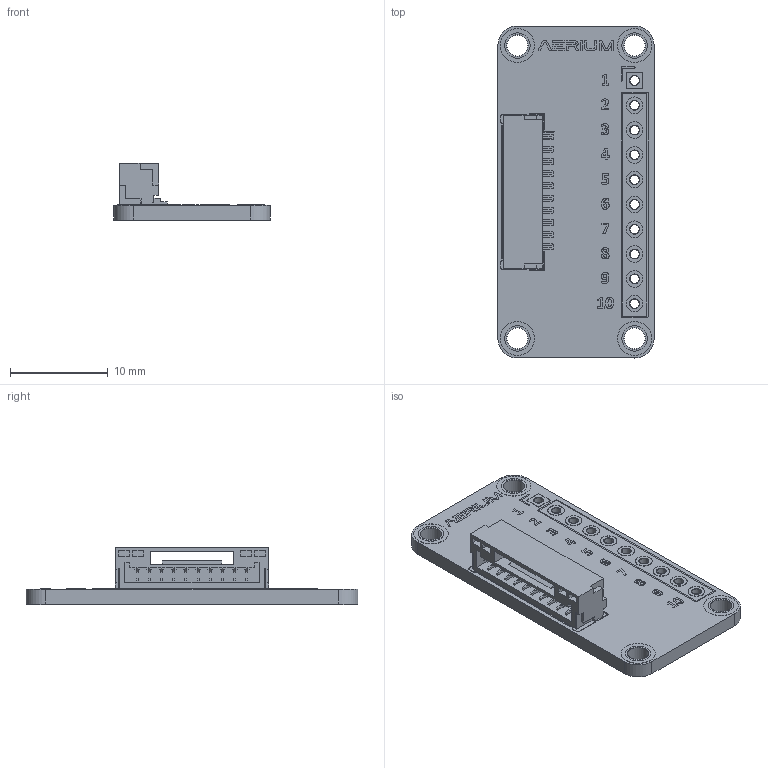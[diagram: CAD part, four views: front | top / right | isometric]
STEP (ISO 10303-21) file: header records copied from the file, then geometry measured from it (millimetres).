
FILE_DESCRIPTION(/* description */ ('KiCad electronic assembly'),/* implementation_level */ '2;1');
FILE_NAME(/* name */ 'SC018_Header_Cable_10P.step',/* time_stamp */ '2026-09-20T15:25:34+03:00',/* author */ (''),/* organization */ (''),/* preprocessor_version */ 'ST-DEVELOPER v20.1',/* originating_system */ 'Autodesk Translation Framework v15.8.0.0',/* authorisation */ '');
FILE_SCHEMA (('AUTOMOTIVE_DESIGN { 1 0 10303 214 3 1 1 }'));
Length unit declared in the file: millimetre
Products named in the file (6): 2026-09-20-12-23-33-059; 2026-09-20-12-23-33-061; 2026-09-20-12-23-33-062; 2026-09-20-12-23-33-063; 2026-09-20-12-23-33-064; 2026-09-20-12-23-33-065
Assembly tree (5 placements, depth 2):
  2026-09-20-12-23-33-059
    2026-09-20-12-23-33-061
    2026-09-20-12-23-33-062
    2026-09-20-12-23-33-063
    2026-09-20-12-23-33-064
    2026-09-20-12-23-33-065
Bounding box: 16 x 34 x 5.92 mm (x, y, z)
Volume: 946.6 mm3; surface area: 2250.7 mm2
Topology: 64 solids, 105 shells, 790 faces, 3184 edges, 2579 vertices
Faces by surface type: plane 626, cylinder 164
Full cylindrical faces by diameter (mm): 0.95 x30, 1 x20, 1.7 x18, 2.15 x20, 2.2 x8, 2.6 x8, 3.5 x8
Entity records: 34181 total; most frequent: CARTESIAN_POINT 6565, DIRECTION 5291, ORIENTED_EDGE 4977, EDGE_CURVE 3184, LINE 2681, VECTOR 2681, VERTEX_POINT 2579, AXIS2_PLACEMENT_3D 1305
